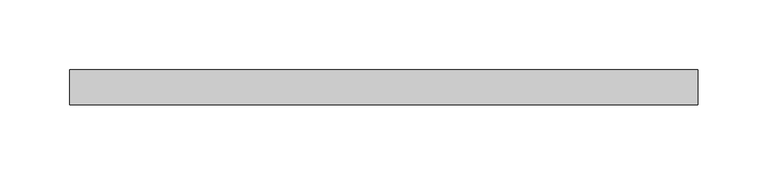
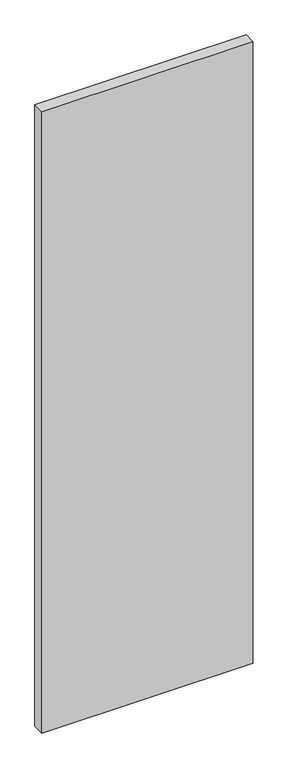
"""IFC4 building model written with IfcOpenShell, lengths in millimetres: plate geometry, Системная панель : ADSK_Cтеклопакет_25 мм."""

from ifc_helpers import new_model, si_unit, origin, origin_with_axes, place, context, project, spatial, polyline, outline, extrude, source, transform, mapped, element, save


def plate_f36334f9(model_context):
    return source(origin(), model_context, "Body", "SweptSolid", [
        extrude(outline(polyline([(225.0, -12.5), (-225.0, -12.5), (-225.0, 12.5), (225.0, 12.5), (225.0, -12.5)])), origin_with_axes(), (0.0, 0.0, 1.0), 1400.0),
    ])


if __name__ == "__main__":
    model = new_model("IFC4")
    model_context = context("Model", 3, world=origin())
    ifc_project = project(units=[si_unit("LENGTHUNIT", "METRE", prefix="MILLI")], contexts=[model_context])
    site = spatial("IfcSite", under=ifc_project)
    building = spatial("IfcBuilding", under=site)
    placement = place(None, origin())
    plate_shape = plate_f36334f9(model_context)
    element("IfcPlate", 1, ObjectType="Системная панель : ADSK_Cтеклопакет_25 мм", at=placement, inside=building, context=model_context, shape_type="MappedRepresentation", body=[
        mapped(plate_shape, transform((0.0, 0.0, 0.0), x_axis=(1.0, 0.0, 0.0), y_axis=(0.0, 1.0, 0.0), z_axis=(0.0, 0.0, 1.0))),
    ])
    save(model, "model.ifc")
